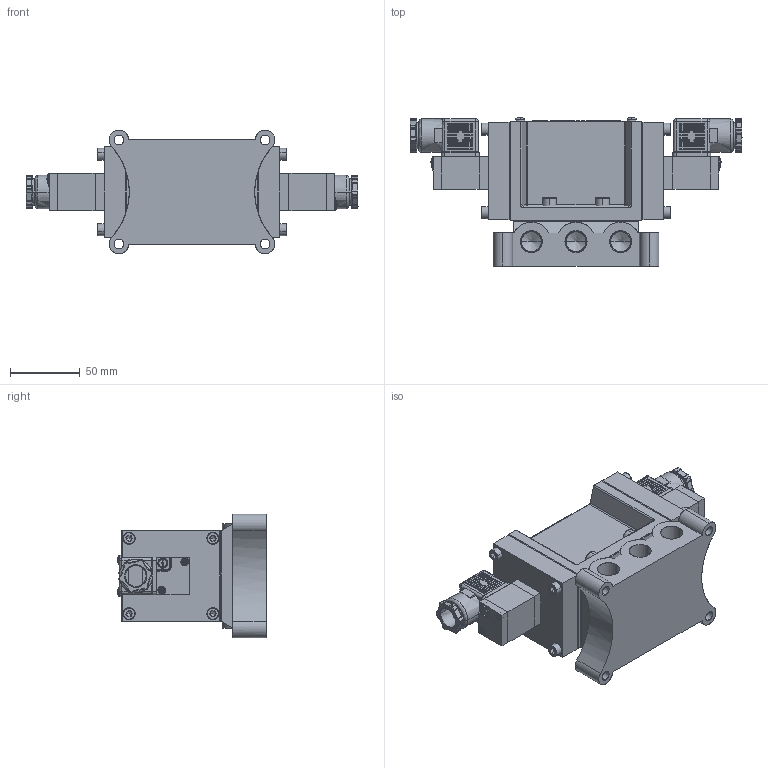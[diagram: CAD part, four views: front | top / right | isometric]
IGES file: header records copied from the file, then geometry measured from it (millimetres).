
Start section: SolidWorks IGES file using analytic representation for surfaces
Global section: file name: D:\Custom\3D繪製\PM\PM10\PMD2410#-03-#C#.IGS,1; native system: 5HSolidWorks 2014; preprocessor: SolidWorks 2014; author: Chieh_Lu; date: 150912.104748; units: millimetre
Bounding box: 238 x 106.35 x 88.61 mm (x, y, z)
Surface area: 178870.7 mm2 (no closed solid volume)
Topology: 0 solids, 0 shells, 1804 faces, 17050 edges, 16744 vertices
Faces by surface type: revolution 972, bspline 832
